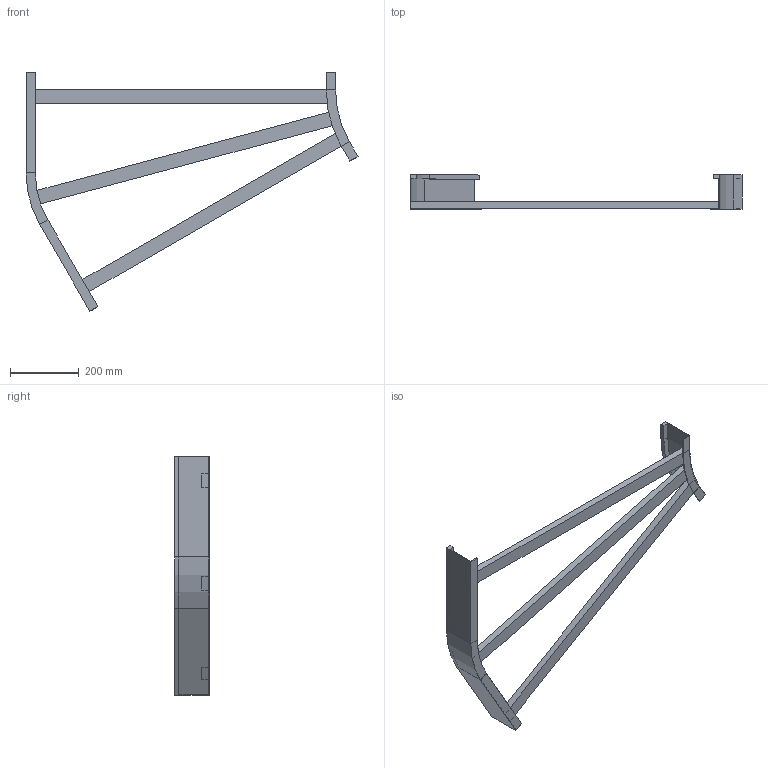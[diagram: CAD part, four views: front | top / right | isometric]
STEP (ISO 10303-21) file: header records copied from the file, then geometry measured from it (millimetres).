
FILE_DESCRIPTION (( 'STEP AP214' ), '1' );
FILE_NAME ('B2_12B3D900.step', '2025-02-21T15:08:06', ( '' ), ( '' ), 'SwSTEP 2.0', 'SolidWorks 2023', '' );
FILE_SCHEMA (( 'AUTOMOTIVE_DESIGN' ));
Length unit declared in the file: millimetre
Products named in the file (5): B2_LONGH.ESTERNO 30°_H100_R300+900; B2_LONGH.INTERNO 30°_H100_R300; TRAVERSINO_900; TRAVERSINO_L926; B2_12B3D900
Assembly tree (5 placements, depth 2):
  B2_12B3D900
    B2_LONGH.INTERNO 30°_H100_R300
    B2_LONGH.ESTERNO 30°_H100_R300+900
    TRAVERSINO_900  x2
    TRAVERSINO_L926
Bounding box: 965.19 x 100 x 693.3 mm (x, y, z)
Volume: 2642018.8 mm3; surface area: 620495.8 mm2
Topology: 5 solids, 5 shells, 70 faces, 148 edges, 88 vertices
Faces by surface type: plane 62, cylinder 8
Entity records: 1822 total; most frequent: DIRECTION 296, CARTESIAN_POINT 288, ORIENTED_EDGE 272, EDGE_CURVE 136, VECTOR 120, LINE 120, AXIS2_PLACEMENT_3D 88, VERTEX_POINT 80
